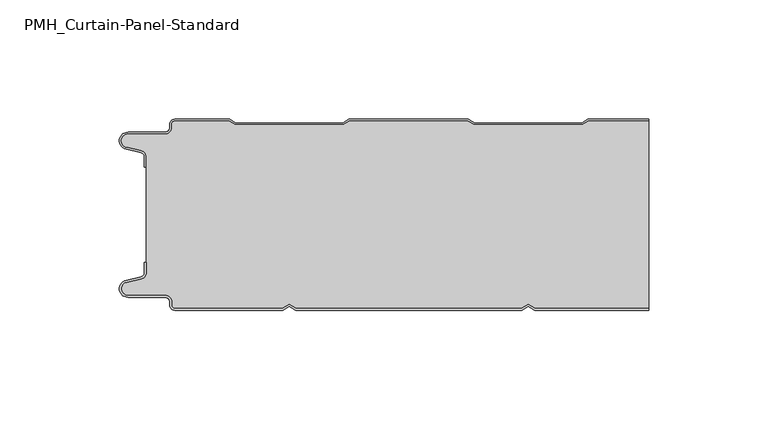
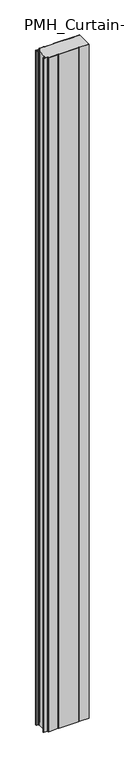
"""IFC4 building model written with IfcOpenShell, lengths in millimetres: plate geometry, PMH_Curtain-Panel-Standard : ACH_PMH_Acoustic-Sectioning-Panel_80M."""

from ifc_helpers import new_model, si_unit, point, frame_2d, origin, origin_with_axes, place, context, project, spatial, polyline, circle_curve, trimmed, segment, composite_curve, outline, extrude, source, transform, mapped, element, save


def pmh_curtain_panel_standard_a9f73665(model_context):
    return source(origin(), model_context, "Body", "SweptSolid", [
        extrude(outline(composite_curve([segment(polyline([(-100.0, 15.878557), (-100.0, 20.0), (-99.2, 20.0), (-99.2, 15.878557)]), True, "CONTINUOUS"), segment(trimmed(circle_curve(frame_2d((-102.0, 15.878557)), 2.8), [point((-99.2, 15.878557))], [point((-101.370137, 13.1503208))], False, "CARTESIAN"), True, "CONTINUOUS"), segment(polyline([(-101.370137, 13.1503208), (-107.529863, 11.728236)]), True, "CONTINUOUS"), segment(trimmed(circle_curve(frame_2d((-106.9, 9.0)), 2.8), [point((-107.529863, 11.728236))], [point((-106.9, 6.2))], True, "CARTESIAN"), True, "CONTINUOUS"), segment(polyline([(-106.9, 6.2), (-91.4, 6.2)]), True, "CONTINUOUS"), segment(trimmed(circle_curve(frame_2d((-91.4, 3.4)), 2.8), [point((-91.4, 6.2))], [point((-88.6, 3.4))], False, "CARTESIAN"), True, "CONTINUOUS"), segment(polyline([(-88.6, 3.4), (-88.6, 2.0)]), True, "CONTINUOUS"), segment(trimmed(circle_curve(frame_2d((-87.4, 2.0)), 1.2), [point((-88.6, 2.0))], [point((-87.4, 0.8))], True, "CARTESIAN"), True, "CONTINUOUS"), segment(polyline([(-87.4, 0.8), (-42.3143588, 0.8), (-39.4, 2.482606), (-36.4856412, 0.8), (57.6856412, 0.8), (60.6, 2.482606), (63.5143588, 0.8), (111.0, 0.8), (111.0, 0.0), (63.2999995, 0.0), (60.6, 1.5588455), (57.9000005, 0.0), (-36.7000005, 0.0), (-39.4, 1.5588455), (-42.0999995, 0.0), (-87.4, 0.0)]), True, "CONTINUOUS"), segment(trimmed(circle_curve(frame_2d((-87.4, 2.0)), 2.0), [point((-87.4, 0.0))], [point((-89.4, 2.0))], False, "CARTESIAN"), True, "CONTINUOUS"), segment(polyline([(-89.4, 2.0), (-89.4, 3.4)]), True, "CONTINUOUS"), segment(trimmed(circle_curve(frame_2d((-91.4, 3.4)), 2.0), [point((-89.4, 3.4))], [point((-91.4, 5.4))], True, "CARTESIAN"), True, "CONTINUOUS"), segment(polyline([(-91.4, 5.4), (-106.9, 5.4)]), True, "CONTINUOUS"), segment(trimmed(circle_curve(frame_2d((-106.9, 9.0)), 3.6), [point((-106.9, 5.4))], [point((-107.7098239, 12.5077322))], False, "CARTESIAN"), True, "CONTINUOUS"), segment(polyline([(-107.7098239, 12.5077322), (-101.5500979, 13.929817)]), True, "CONTINUOUS"), segment(trimmed(circle_curve(frame_2d((-102.0, 15.878557)), 2.0), [point((-101.5500979, 13.929817))], [point((-100.0, 15.878557))], True, "CARTESIAN"), True, "CONTINUOUS")], self_intersect=False)), origin_with_axes(), (0.0, 0.0, 1.0), 3500.0),
        extrude(outline(composite_curve([segment(trimmed(circle_curve(frame_2d((-102.0, 64.121443)), 2.8), [point((-99.2, 64.121443))], [point((-101.370137, 66.8496792))], True, "CARTESIAN"), True, "CONTINUOUS"), segment(polyline([(-101.370137, 66.8496792), (-107.529863, 68.271764)]), True, "CONTINUOUS"), segment(trimmed(circle_curve(frame_2d((-106.9, 71.0)), 2.7999998), [point((-107.529863, 68.271764))], [point((-106.9, 73.7999998))], False, "CARTESIAN"), True, "CONTINUOUS"), segment(polyline([(-106.9, 73.7999998), (-91.4, 73.7999998)]), True, "CONTINUOUS"), segment(trimmed(circle_curve(frame_2d((-91.4, 76.5999998)), 2.8), [point((-91.4, 73.7999998))], [point((-88.6, 76.5999998))], True, "CARTESIAN"), True, "CONTINUOUS"), segment(polyline([(-88.6, 76.5999998), (-88.6, 78.0)]), True, "CONTINUOUS"), segment(trimmed(circle_curve(frame_2d((-87.4, 78.0)), 1.2), [point((-88.6, 78.0))], [point((-87.4, 79.2))], False, "CARTESIAN"), True, "CONTINUOUS"), segment(polyline([(-87.4, 79.2), (-64.6143592, 79.2), (-62.0162816, 77.7), (-16.7875654, 77.7), (-14.1894878, 79.2), (35.3856408, 79.2), (37.9837184, 77.7), (83.2124346, 77.7), (85.8105122, 79.2), (111.0, 79.2), (111.0, 0.8), (63.5143588, 0.8), (60.5999999, 2.482606), (57.6856411, 0.8), (-36.4856412, 0.8), (-39.4000001, 2.482606), (-42.3143589, 0.8), (-87.4000001, 0.8)]), True, "CONTINUOUS"), segment(trimmed(circle_curve(frame_2d((-87.4000001, 2.0)), 1.2), [point((-87.4000001, 0.8))], [point((-88.6000001, 2.0))], False, "CARTESIAN"), True, "CONTINUOUS"), segment(polyline([(-88.6000001, 2.0), (-88.6000001, 3.4)]), True, "CONTINUOUS"), segment(trimmed(circle_curve(frame_2d((-91.4000001, 3.4)), 2.8), [point((-88.6000001, 3.4))], [point((-91.4000001, 6.2))], True, "CARTESIAN"), True, "CONTINUOUS"), segment(polyline([(-91.4000001, 6.2), (-106.9, 6.2)]), True, "CONTINUOUS"), segment(trimmed(circle_curve(frame_2d((-106.9, 9.0)), 2.8), [point((-106.9, 6.2))], [point((-107.5298631, 11.7282362))], False, "CARTESIAN"), True, "CONTINUOUS"), segment(polyline([(-107.5298631, 11.7282362), (-101.370137, 13.1503212)]), True, "CONTINUOUS"), segment(trimmed(circle_curve(frame_2d((-102.0, 15.8785573)), 2.8), [point((-101.370137, 13.1503212))], [point((-99.2, 15.8785573))], True, "CARTESIAN"), True, "CONTINUOUS"), segment(polyline([(-99.2, 15.8785573), (-99.2, 64.121443)]), True, "CONTINUOUS")], self_intersect=False)), origin_with_axes(), (0.0, 0.0, 1.0), 3500.0),
        extrude(outline(composite_curve([segment(polyline([(-87.4, 80.0), (-64.3999999, 80.0), (-61.8019223, 78.5), (-17.0019247, 78.5), (-14.4038471, 80.0), (35.6000001, 80.0), (38.1980777, 78.5), (82.9980753, 78.5), (85.5961529, 80.0), (111.0, 80.0), (111.0, 79.2), (85.8105122, 79.2), (83.2124346, 77.7), (37.9837184, 77.7), (35.3856408, 79.2), (-14.1894878, 79.2), (-16.7875654, 77.7), (-62.0162816, 77.7), (-64.6143592, 79.2), (-87.4, 79.2)]), True, "CONTINUOUS"), segment(trimmed(circle_curve(frame_2d((-87.4, 78.0)), 1.2), [point((-87.4, 79.2))], [point((-88.6, 78.0))], True, "CARTESIAN"), True, "CONTINUOUS"), segment(polyline([(-88.6, 78.0), (-88.6, 76.6)]), True, "CONTINUOUS"), segment(trimmed(circle_curve(frame_2d((-91.4, 76.6)), 2.8), [point((-88.6, 76.6))], [point((-91.4, 73.8))], False, "CARTESIAN"), True, "CONTINUOUS"), segment(polyline([(-91.4, 73.8), (-106.9, 73.8)]), True, "CONTINUOUS"), segment(trimmed(circle_curve(frame_2d((-106.9, 71.0)), 2.8), [point((-106.9, 73.8))], [point((-107.529863, 68.2717638))], True, "CARTESIAN"), True, "CONTINUOUS"), segment(polyline([(-107.529863, 68.2717638), (-101.370137, 66.849679)]), True, "CONTINUOUS"), segment(trimmed(circle_curve(frame_2d((-102.0, 64.121443)), 2.8), [point((-101.370137, 66.849679))], [point((-99.2, 64.121443))], False, "CARTESIAN"), True, "CONTINUOUS"), segment(polyline([(-99.2, 64.121443), (-99.2, 60.0), (-100.0, 60.0), (-100.0, 64.121443)]), True, "CONTINUOUS"), segment(trimmed(circle_curve(frame_2d((-102.0, 64.121443)), 2.0), [point((-100.0, 64.121443))], [point((-101.5500978, 66.0701831))], True, "CARTESIAN"), True, "CONTINUOUS"), segment(polyline([(-101.5500978, 66.0701831), (-107.7098239, 67.492268)]), True, "CONTINUOUS"), segment(trimmed(circle_curve(frame_2d((-106.9, 71.0)), 3.6), [point((-107.7098239, 67.492268))], [point((-106.9, 74.6))], False, "CARTESIAN"), True, "CONTINUOUS"), segment(polyline([(-106.9, 74.6), (-91.4, 74.6)]), True, "CONTINUOUS"), segment(trimmed(circle_curve(frame_2d((-91.4, 76.6)), 2.0), [point((-91.4, 74.6))], [point((-89.4, 76.6))], True, "CARTESIAN"), True, "CONTINUOUS"), segment(polyline([(-89.4, 76.6), (-89.4, 78.0)]), True, "CONTINUOUS"), segment(trimmed(circle_curve(frame_2d((-87.4, 78.0)), 2.0), [point((-89.4, 78.0))], [point((-87.4, 80.0))], False, "CARTESIAN"), True, "CONTINUOUS")], self_intersect=False)), origin_with_axes(), (0.0, 0.0, 1.0), 3500.0),
    ])


if __name__ == "__main__":
    model = new_model("IFC4")
    model_context = context("Model", 3, world=origin())
    ifc_project = project(units=[si_unit("LENGTHUNIT", "METRE", prefix="MILLI")], contexts=[model_context])
    site = spatial("IfcSite", under=ifc_project)
    building = spatial("IfcBuilding", under=site)
    placement = place(None, origin())
    pmh_curtain_panel_standard_shape = pmh_curtain_panel_standard_a9f73665(model_context)
    element("IfcPlate", 1, ObjectType="PMH_Curtain-Panel-Standard : ACH_PMH_Acoustic-Sectioning-Panel_80M", at=placement, inside=building, context=model_context, shape_type="MappedRepresentation", body=[
        mapped(pmh_curtain_panel_standard_shape, transform((0.0, 0.0, 0.0), x_axis=(1.0, 0.0, 0.0), y_axis=(0.0, 1.0, 0.0), z_axis=(0.0, 0.0, 1.0))),
    ])
    save(model, "model.ifc")
